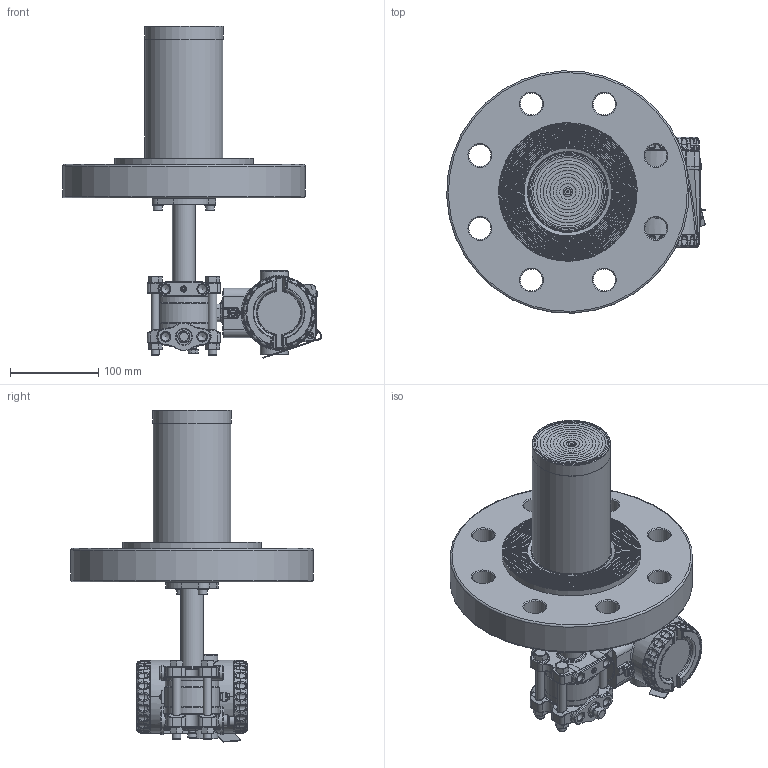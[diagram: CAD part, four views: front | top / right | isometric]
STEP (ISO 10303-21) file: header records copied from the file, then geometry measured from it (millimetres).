
FILE_DESCRIPTION(/* description */ (''),/* implementation_level */ '2;1');
FILE_NAME(/* name */ 'F:\Area\Desenvolvimento_2\Projects\Sensor\projetos\LD400-3d\dimensionais 3D clientes\LD400L\LD400L 4-600 RF ext 150 ref 1-4NPT purga acima.stp',/* time_stamp */ '2023-02-23T16:58:47-03:00',/* author */ ('inventor02'),/* organization */ (''),/* preprocessor_version */ 'ST-DEVELOPER v17',/* originating_system */ 'Autodesk Inventor 2019',/* authorisation */ '');
FILE_SCHEMA (('CONFIG_CONTROL_DESIGN'));
Products named in the file (41): LD30XL 4-600 RF ext 150 ref 1-4NPT purga acima; 204-0301-L-4 600 RF ext 150 purga acima; nivel fx3 com baixa diferencial 1-4NPT purga acima; involucro fx0-3 apos a usinagem final; flange diferencial std purga; 101-C-7484-01 flange selo nivel VR; 201-A-0504-tubo união teste 1; bujao 1-4NPT; Sangria; Porca 3-8 x 16 UNC; Paraf. 3-8 x 16 UNC; adaptação tubo x flanges 1-1-2 a 4pol; 101-B-0161-anel cortado do tubo - teste1; 101-B-0162-flange fixação tubo; ANSI B18.3.1M - M6x1 x 16; DIN 127 - A 6; flange 4 600 ext 150; 101-C-0132-09; 096-B-0212-15; 101-B-7702-02 ext 4-150; Carcaça 400 com tampas e plaqueta sem letras; 101-D-0845-05 carcaça LD400 sem letras; 101-B-3614-03-tampa 400 sem letras; Tampa visor 400 montada sem letras; 101-B-3612-05 tampa visor 400 sem letras; 101-A-6107; oring 2034; 00034775-0; WHW_250; DIN 915 - M6 x 10; Chapa aterramento externo; 201-A-1771-02 inserto terra recartilhado; AS 1969 - ST4,2; ISO 1207 - M4 x 8; ANSI B18.3.1M - M4x0,7 x 8; Subconjunto plaqueta 400; plaqueta 400 em branco; Parafuso da Plaqueta; Rebite da Plaqueta; 096-A-0169-03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
Assembly tree (50 placements, depth 4):
  LD30XL 4-600 RF ext 150 ref 1-4NPT purga acima
    204-0301-L-4 600 RF ext 150 purga acima
      nivel fx3 com baixa diferencial 1-4NPT purga acima
        involucro fx0-3 apos a usinagem final
        flange diferencial std purga
        101-C-7484-01 flange selo nivel VR
        201-A-0504-tubo união teste 1
        DIN 915 - M6 x 10
        bujao 1-4NPT
        Sangria
        Porca 3-8 x 16 UNC  x4
        Paraf. 3-8 x 16 UNC  x4
      adaptação tubo x flanges 1-1-2 a 4pol
        101-B-0161-anel cortado do tubo - teste1
        101-B-0162-flange fixação tubo
        ANSI B18.3.1M - M6x1 x 16  x2
        DIN 127 - A 6  x2
      flange 4 600 ext 150
        101-C-0132-09
        096-B-0212-15
        101-B-7702-02 ext 4-150
    Carcaça 400 com tampas e plaqueta sem letras
      101-D-0845-05 carcaça LD400 sem letras
      101-B-3614-03-tampa 400 sem letras
      Tampa visor 400 montada sem letras
        101-B-3612-05 tampa visor 400 sem letras
        101-A-6107
        oring 2034
        00034775-0
        WHW_250
      DIN 915 - M6 x 10
      Chapa aterramento externo
      201-A-1771-02 inserto terra recartilhado
      AS 1969 - ST4,2
      ISO 1207 - M4 x 8
      ANSI B18.3.1M - M4x0,7 x 8  x2
      Subconjunto plaqueta 400
        plaqueta 400 em branco
        Parafuso da Plaqueta
        Rebite da Plaqueta
        096-A-0169-03
        101-A-0502-01
Bounding box: 293.12 x 274.74 x 376.42 mm (x, y, z)
Volume: 3134834.9 mm3; surface area: 522534.5 mm2
Topology: 43 solids, 43 shells, 2834 faces, 6835 edges, 4112 vertices
Faces by surface type: plane 751, cylinder 668, bspline 604, torus 505, cone 230, sphere 76
Full cylindrical faces by diameter (mm): 2 x4, 2.1 x1, 2.2 x1, 2.459 x3, 2.5 x1, 2.7 x1, 2.8 x1, 3 x4, 3.242 x3, 3.5 x1, 3.571 x1, 4 x5, 4.3 x2, 4.4 x1, 4.917 x4, 5 x1, 5.5 x3, 6 x6, 6.1 x2, 6.2 x1, 6.647 x1, 7 x5, 7.6 x2, 7.798 x4, 8 x1, 9.525 x4, 9.728 x6, 10 x2, 10.5 x8, 10.719 x2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
Entity records: 100416 total; most frequent: CARTESIAN_POINT 37343, DIRECTION 13070, ORIENTED_EDGE 12910, EDGE_CURVE 6455, AXIS2_PLACEMENT_3D 5618, VERTEX_POINT 3918, CIRCLE 3271, EDGE_LOOP 2907
